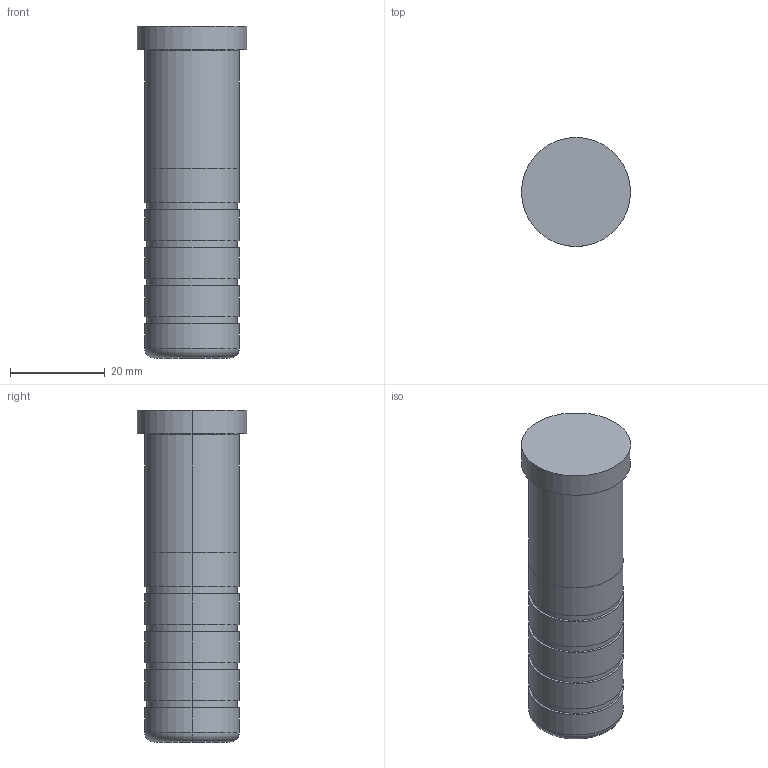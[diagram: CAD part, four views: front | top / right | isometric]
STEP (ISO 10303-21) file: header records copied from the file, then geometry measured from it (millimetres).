
FILE_DESCRIPTION(/* description */ (''),/* implementation_level */ '2;1');
FILE_NAME(/* name */ '3d_sgoh20-70_05193_r00.stp',/* time_stamp */ '2011-01-10T14:11:08+09:00',/* author */ ('MISUMI'),/* organization */ (''),/* preprocessor_version */ 'ST-DEVELOPER v11',/* originating_system */ 'UGS - NX 5.0',/* authorisation */ '');
FILE_SCHEMA (('CONFIG_CONTROL_DESIGN'));
Length unit declared in the file: millimetre
Products named in the file (1): 3d_sgoh20-70_05193_r00
Bounding box: 23 x 23 x 70 mm (x, y, z)
Volume: 22263.3 mm3; surface area: 5440.1 mm2
Topology: 1 solids, 1 shells, 37 faces, 72 edges, 46 vertices
Faces by surface type: cylinder 22, plane 11, torus 4
Entity records: 1054 total; most frequent: DIRECTION 198, CARTESIAN_POINT 156, ORIENTED_EDGE 144, AXIS2_PLACEMENT_3D 88, EDGE_CURVE 72, CIRCLE 50, EDGE_LOOP 46, VERTEX_POINT 46
